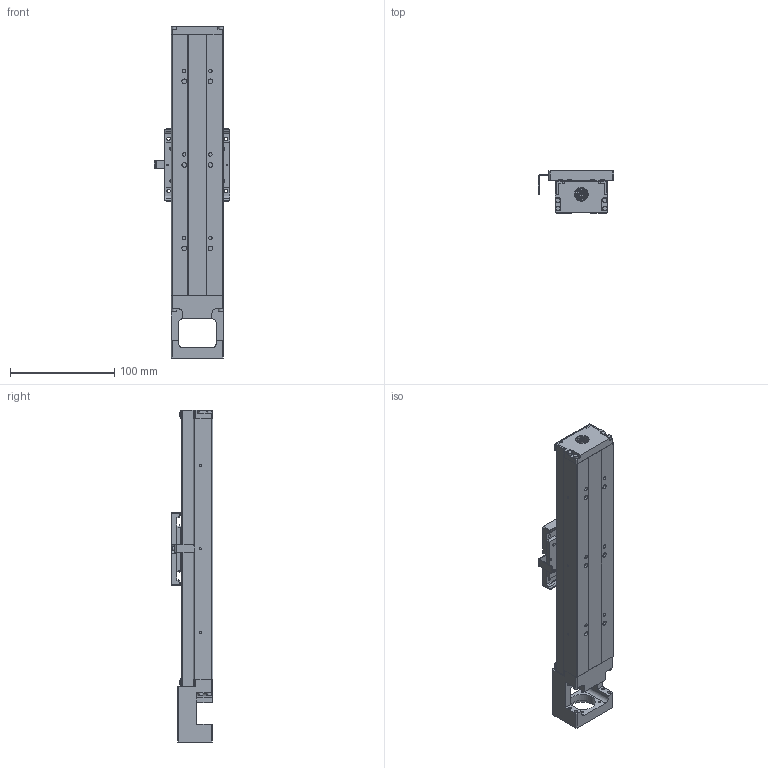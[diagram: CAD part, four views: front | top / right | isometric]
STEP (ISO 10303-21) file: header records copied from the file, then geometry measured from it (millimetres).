
FILE_DESCRIPTION (( 'STEP AP203' ), '1' );
FILE_NAME ('GKAC2650-160-12N-P2-CXXXX-網站用圖.STEP', '2023-04-19T02:23:32', ( '' ), ( '' ), 'SwSTEP 2.0', 'SolidWorks 2019', '' );
FILE_SCHEMA (( 'CONFIG_CONTROL_DESIGN' ));
Length unit declared in the file: millimetre
Products named in the file (3): GKAC2650-160-12N-P2-CXXXX-網站用圖; Group2^GKAC2650-160-12N-P2-CXXXX_defeature-網站用圖_GMT; Group1^GKAC2650-160-12N-P2-CXXXX_defeature-網站用圖_GMT
Assembly tree (2 placements, depth 2):
  GKAC2650-160-12N-P2-CXXXX-網站用圖
    Group1^GKAC2650-160-12N-P2-CXXXX_defeature-網站用圖_GMT
    Group2^GKAC2650-160-12N-P2-CXXXX_defeature-網站用圖_GMT
Bounding box: 72.2 x 40 x 318 mm (x, y, z)
Volume: 274223.6 mm3; surface area: 143320.8 mm2
Topology: 2 solids, 15 shells, 1793 faces, 4870 edges, 3067 vertices
Faces by surface type: plane 806, cylinder 578, torus 197, cone 174, sphere 38
Full cylindrical faces by diameter (mm): 16 x1
Entity records: 57870 total; most frequent: CARTESIAN_POINT 11478, DIRECTION 10129, ORIENTED_EDGE 9584, EDGE_CURVE 4792, AXIS2_PLACEMENT_3D 3868, VERTEX_POINT 3047, VECTOR 2393, LINE 2393
